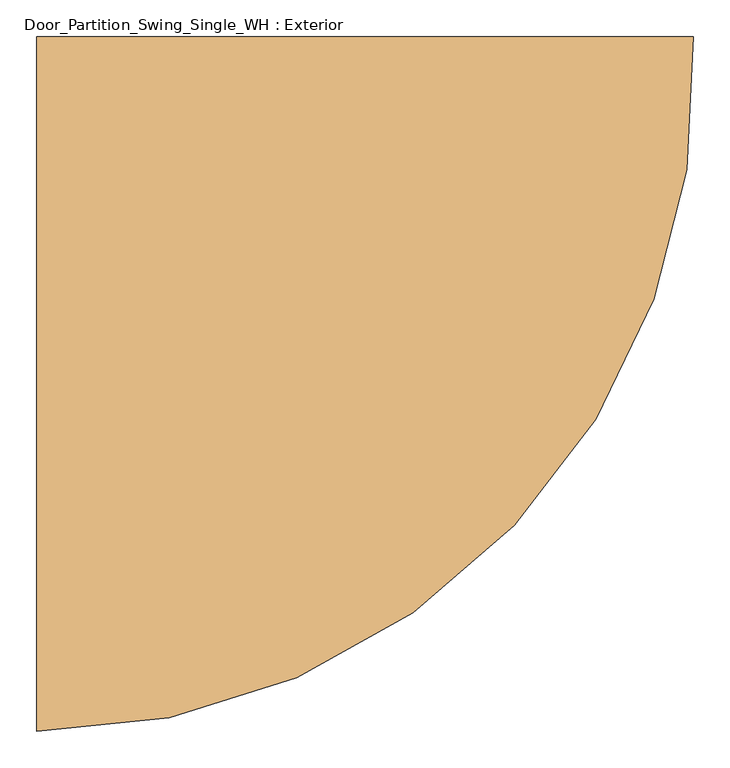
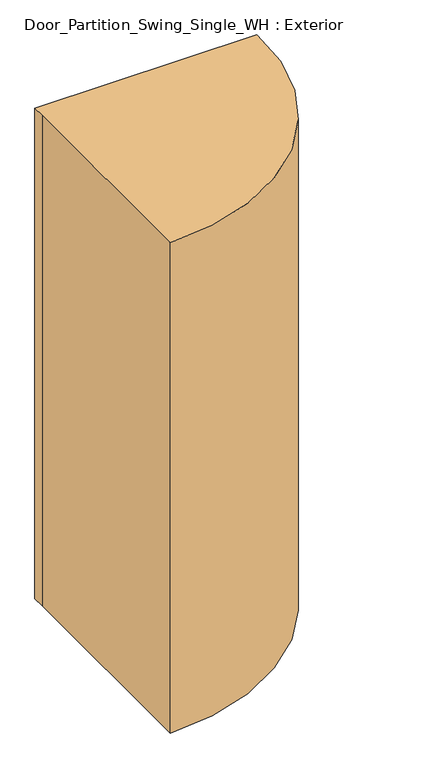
"""IFC4 building model written with IfcOpenShell, lengths in millimetres: door geometry, Door_Partition_Swing_Single_WH : Exterior."""

from ifc_helpers import new_model, si_unit, point, frame_2d, origin, origin_with_axes, place, context, project, spatial, polyline, circle_curve, trimmed, segment, composite_curve, outline, extrude, source, transform, mapped, element, save


def door_partition_swing_single_wh_exterior_078b59bc(model_context):
    return source(origin(), model_context, "Body", "SweptSolid", [
        extrude(outline(composite_curve([segment(polyline([(-431.6346798, -51.6), (466.9753579, -51.6)]), True, "CONTINUOUS"), segment(trimmed(circle_curve(frame_2d((-431.6346798, -101.6)), 900.0), [point((466.9753579, -51.6))], [point((-431.6346798, -1001.6))], False, "CARTESIAN"), True, "CONTINUOUS"), segment(polyline([(-431.6346798, -1001.6), (-431.6346798, -101.6), (-431.6346798, -51.6)]), True, "CONTINUOUS")], self_intersect=False)), origin_with_axes(), (0.0, 0.0, 1.0), 2100.0),
    ])


if __name__ == "__main__":
    model = new_model("IFC4")
    model_context = context("Model", 3, world=origin())
    ifc_project = project(units=[si_unit("LENGTHUNIT", "METRE", prefix="MILLI")], contexts=[model_context])
    site = spatial("IfcSite", under=ifc_project)
    building = spatial("IfcBuilding", under=site)
    placement = place(None, origin())
    door_partition_swing_single_wh_exterior_shape = door_partition_swing_single_wh_exterior_078b59bc(model_context)
    element("IfcDoor", 1, ObjectType="Door_Partition_Swing_Single_WH : Exterior", at=placement, inside=building, context=model_context, shape_type="MappedRepresentation", body=[
        mapped(door_partition_swing_single_wh_exterior_shape, transform((0.0, 0.0, 0.0), x_axis=(1.0, 0.0, 0.0), y_axis=(0.0, 1.0, 0.0), z_axis=(0.0, 0.0, 1.0))),
    ])
    save(model, "model.ifc")
